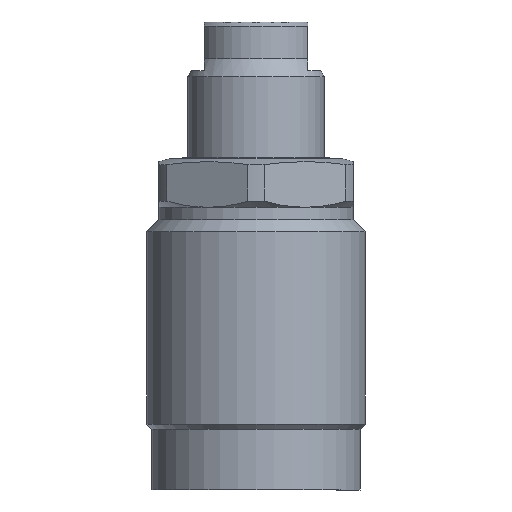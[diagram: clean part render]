
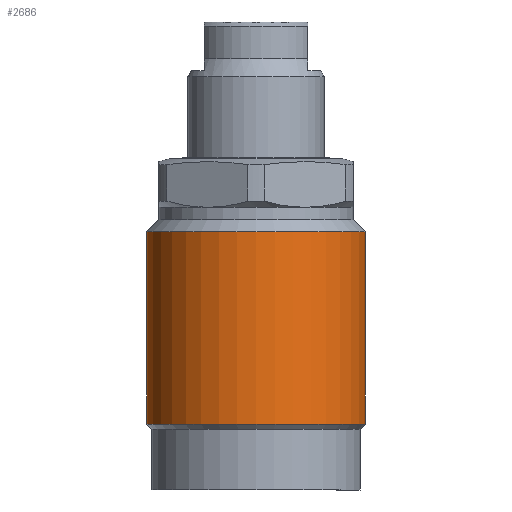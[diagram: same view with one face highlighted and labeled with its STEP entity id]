
A CAD part, front view. The second image highlights one B-rep face of the part: STEP entity #2686.
In plain terms, the highlighted cylindrical face has radius 18 mm (diameter 36 mm), a partial arc.
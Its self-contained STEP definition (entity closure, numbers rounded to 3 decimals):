
#117 = VECTOR ( 'NONE', #660, 1000. ) ;
#120 = VECTOR ( 'NONE', #664, 1000. ) ;
#201 = EDGE_CURVE ( 'NONE', #2434, #2439, #656, .T. ) ;
#202 = EDGE_CURVE ( 'NONE', #2437, #2432, #661, .T. ) ;
#272 = EDGE_CURVE ( 'NONE', #2434, #2437, #1908, .T. ) ;
#273 = EDGE_CURVE ( 'NONE', #2439, #2432, #1910, .T. ) ;
#475 = CARTESIAN_POINT ( 'NONE',  ( 18., 0., -12. ) ) ;
#477 = CARTESIAN_POINT ( 'NONE',  ( -18., 0., -43.65 ) ) ;
#480 = CARTESIAN_POINT ( 'NONE',  ( 18., 0., -43.65 ) ) ;
#482 = CARTESIAN_POINT ( 'NONE',  ( -18., 0., -12. ) ) ;
#654 = CARTESIAN_POINT ( 'NONE',  ( -18., 0., 14.451 ) ) ;
#656 = LINE ( 'NONE', #654, #117 ) ;
#660 = DIRECTION ( 'NONE',  ( 0., 0., 1. ) ) ;
#661 = LINE ( 'NONE', #663, #120 ) ;
#663 = CARTESIAN_POINT ( 'NONE',  ( 18., 0., 14.451 ) ) ;
#664 = DIRECTION ( 'NONE',  ( 0., 0., 1. ) ) ;
#944 = DIRECTION ( 'NONE',  ( 0., 0., 1. ) ) ;
#946 = FACE_OUTER_BOUND ( 'NONE', #1383, .T. ) ;
#947 = CARTESIAN_POINT ( 'NONE',  ( 0., 0., 14.451 ) ) ;
#949 = CYLINDRICAL_SURFACE ( 'NONE', #2006, 18. ) ;
#950 = DIRECTION ( 'NONE',  ( 1., 0., 0. ) ) ;
#1383 = EDGE_LOOP ( 'NONE', ( #2334, #2335, #2336, #2337 ) ) ;
#1635 = CARTESIAN_POINT ( 'NONE',  ( 0., 0., -43.65 ) ) ;
#1636 = DIRECTION ( 'NONE',  ( 0., 0., 1. ) ) ;
#1637 = DIRECTION ( 'NONE',  ( 1., 0., 0. ) ) ;
#1638 = CARTESIAN_POINT ( 'NONE',  ( 0., 0., -12. ) ) ;
#1639 = DIRECTION ( 'NONE',  ( 0., 0., 1. ) ) ;
#1640 = DIRECTION ( 'NONE',  ( 1., 0., 0. ) ) ;
#1908 = CIRCLE ( 'NONE', #1911, 18. ) ;
#1910 = CIRCLE ( 'NONE', #1913, 18. ) ;
#1911 = AXIS2_PLACEMENT_3D ( 'NONE', #1635, #1636, #1637 ) ;
#1913 = AXIS2_PLACEMENT_3D ( 'NONE', #1638, #1639, #1640 ) ;
#2006 = AXIS2_PLACEMENT_3D ( 'NONE', #947, #944, #950 ) ;
#2334 = ORIENTED_EDGE ( 'NONE', *, *, #201, .F. ) ;
#2335 = ORIENTED_EDGE ( 'NONE', *, *, #272, .T. ) ;
#2336 = ORIENTED_EDGE ( 'NONE', *, *, #202, .T. ) ;
#2337 = ORIENTED_EDGE ( 'NONE', *, *, #273, .F. ) ;
#2432 = VERTEX_POINT ( 'NONE', #475 ) ;
#2434 = VERTEX_POINT ( 'NONE', #477 ) ;
#2437 = VERTEX_POINT ( 'NONE', #480 ) ;
#2439 = VERTEX_POINT ( 'NONE', #482 ) ;
#2686 = ADVANCED_FACE ( 'NONE', ( #946 ), #949, .T. ) ;
